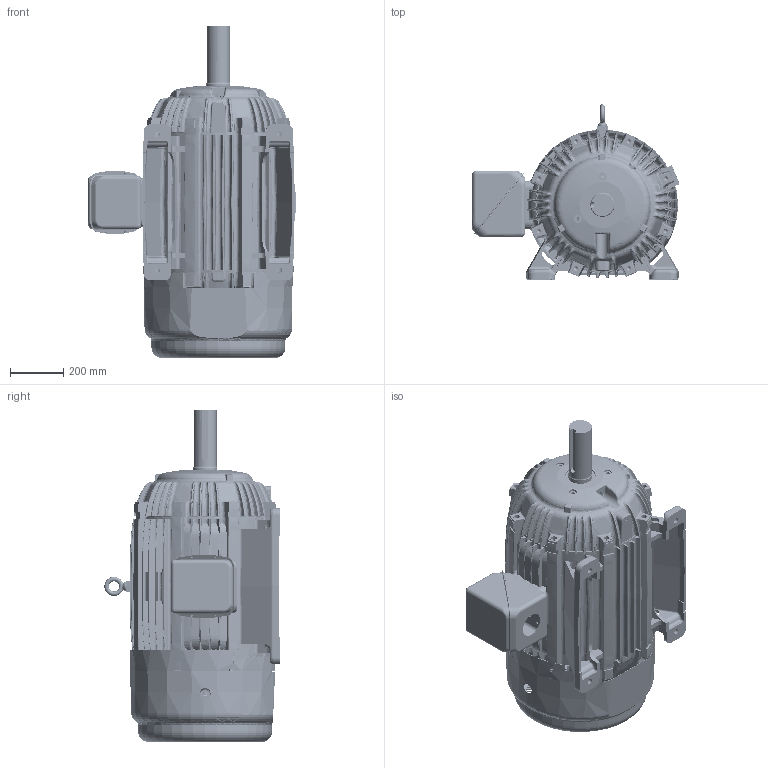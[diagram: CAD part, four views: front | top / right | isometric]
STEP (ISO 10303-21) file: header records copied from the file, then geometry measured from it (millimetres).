
FILE_DESCRIPTION((''),'2;1');
FILE_NAME('GP447_ASSY_ASM','2014-06-23T',('NMC779F'),('Nidec Motor Corporation'),'PRO/ENGINEER BY PARAMETRIC TECHNOLOGY CORPORATION, 2013150','PRO/ENGINEER BY PARAMETRIC TECHNOLOGY CORPORATION, 2013150','');
FILE_SCHEMA(('CONFIG_CONTROL_DESIGN'));
Products named in the file (10): 0955704; 0650197; 0650196; 0132115; 0986872; 0380740; 0378704; 0378705; 0013350; GP447_ASSY_ASM
Assembly tree (9 placements, depth 2):
  GP447_ASSY_ASM
    0955704
    0650197
    0650196
    0132115
    0986872
    0380740
    0378704
    0378705
    0013350
Bounding box: 775.71 x 655.96 x 1242.31 mm (x, y, z)
Volume: 50727413.7 mm3; surface area: 7420790.3 mm2
Topology: 11 solids, 11 shells, 7368 faces, 17927 edges, 10510 vertices
Faces by surface type: bspline 4383, plane 961, cylinder 947, torus 552, cone 287, extrusion 122, sphere 116
Entity records: 412473 total; most frequent: CARTESIAN_POINT 271666, ORIENTED_EDGE 35618, DIRECTION 20210, EDGE_CURVE 17809, VERTEX_POINT 10510, B_SPLINE_CURVE_WITH_KNOTS 9233, AXIS2_PLACEMENT_3D 8508, EDGE_LOOP 7757
